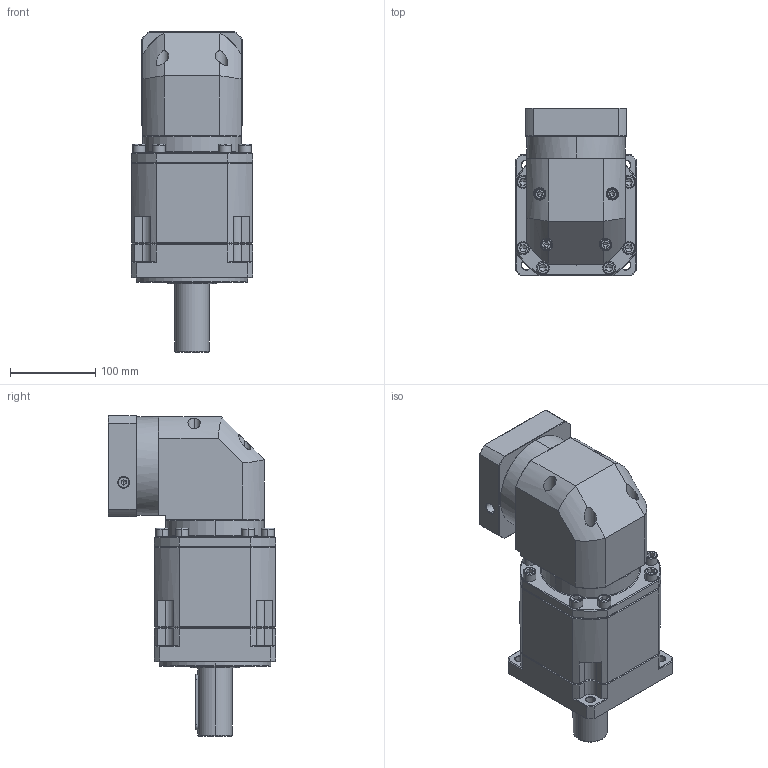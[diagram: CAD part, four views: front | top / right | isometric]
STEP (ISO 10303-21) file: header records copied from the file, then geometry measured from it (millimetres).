
FILE_DESCRIPTION (( 'STEP AP214' ), '1' );
FILE_NAME ('ZBR142A-D40-L3-P2-24-95-115-M6.step', '2023-09-02T08:11:40', ( '' ), ( '' ), 'SwSTEP 2.0', 'SolidWorks 2016', '' );
FILE_SCHEMA (( 'AUTOMOTIVE_DESIGN' ));
Length unit declared in the file: millimetre
Products named in the file (1): ZBR142A-D40-L3-P2-24-95-115-M6
Bounding box: 142 x 195.9 x 375.2 mm (x, y, z)
Volume: 5044413.2 mm3; surface area: 328632.4 mm2
Topology: 6 solids, 6 shells, 2576 faces, 6684 edges, 4233 vertices
Faces by surface type: plane 1231, cylinder 487, bspline 414, cone 398, torus 46
Entity records: 137198 total; most frequent: CARTESIAN_POINT 49281, ORIENTED_EDGE 13260, DIRECTION 10855, EDGE_CURVE 6630, VECTOR 4253, LINE 4253, VERTEX_POINT 4233, AXIS2_PLACEMENT_3D 3301
